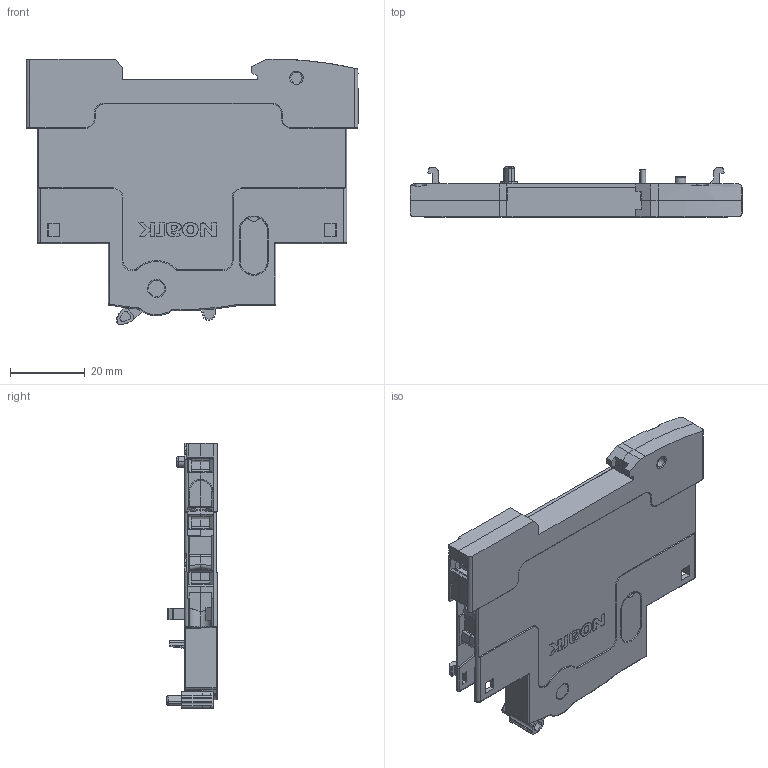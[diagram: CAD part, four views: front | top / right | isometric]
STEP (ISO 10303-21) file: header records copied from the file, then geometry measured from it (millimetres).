
FILE_DESCRIPTION((''),'2;1');
FILE_NAME('AX-B8R11','2025-04-28T12:35:34',('dyliuk3'),(''),'CREO PARAMETRIC BY PTC INC, 2020044','CREO PARAMETRIC BY PTC INC, 2020044','');
FILE_SCHEMA(('CONFIG_CONTROL_DESIGN','SHAPE_APPEARANCE_LAYERS_GROUPS'));
Products named in the file (1): AX-B8R11
Bounding box: 89 x 13.5 x 71.22 mm (x, y, z)
Volume: 2379.3 mm3; surface area: 38133.9 mm2
Topology: 13 solids, 23 shells, 3563 faces, 9930 edges, 6510 vertices
Faces by surface type: plane 2545, cylinder 785, torus 84, cone 62, extrusion 44, sphere 37, bspline 6
Entity records: 145946 total; most frequent: CARTESIAN_POINT 22680, ORIENTED_EDGE 19720, DIRECTION 18430, EDGE_CURVE 9891, PRESENTATION_STYLE_ASSIGNMENT 9119, STYLED_ITEM 8860, CURVE_STYLE 8235, VECTOR 7464
